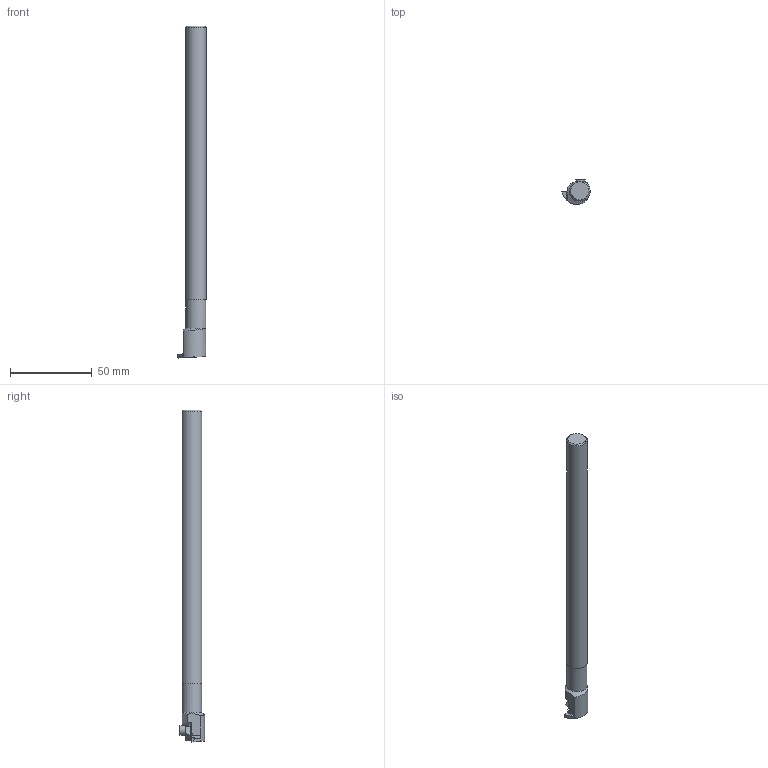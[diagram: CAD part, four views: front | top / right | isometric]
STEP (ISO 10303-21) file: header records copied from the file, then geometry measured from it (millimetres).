
FILE_DESCRIPTION(/* description */ (' '),/* implementation_level */ '2;1');
FILE_NAME(/* name */ 'A08NER2_GTM.stp',/* time_stamp */ '2018-04-24T09:34:33+05:00',/* author */ (''),/* organization */ (''),/* preprocessor_version */ 'ST-DEVELOPER v15',/* originating_system */ 'SIEMENS PLM Software NX 9.0',/* authorisation */ '');
FILE_SCHEMA (('AUTOMOTIVE_DESIGN { 1 0 10303 214 3 1 1 1 }'));
Length unit declared in the file: millimetre
Products named in the file (1): A08NER2_GTM
Bounding box: 17.43 x 15.4 x 203.2 mm (x, y, z)
Volume: 25255.9 mm3; surface area: 9167.6 mm2
Topology: 4 solids, 4 shells, 92 faces, 250 edges, 176 vertices
Faces by surface type: plane 62, cylinder 21, cone 5, bspline 4
Full cylindrical faces by diameter (mm): 3.505 x1, 5.74 x1
Entity records: 3098 total; most frequent: CARTESIAN_POINT 688, ORIENTED_EDGE 472, DIRECTION 469, EDGE_CURVE 236, LINE 171, VECTOR 171, VERTEX_POINT 159, AXIS2_PLACEMENT_3D 149
